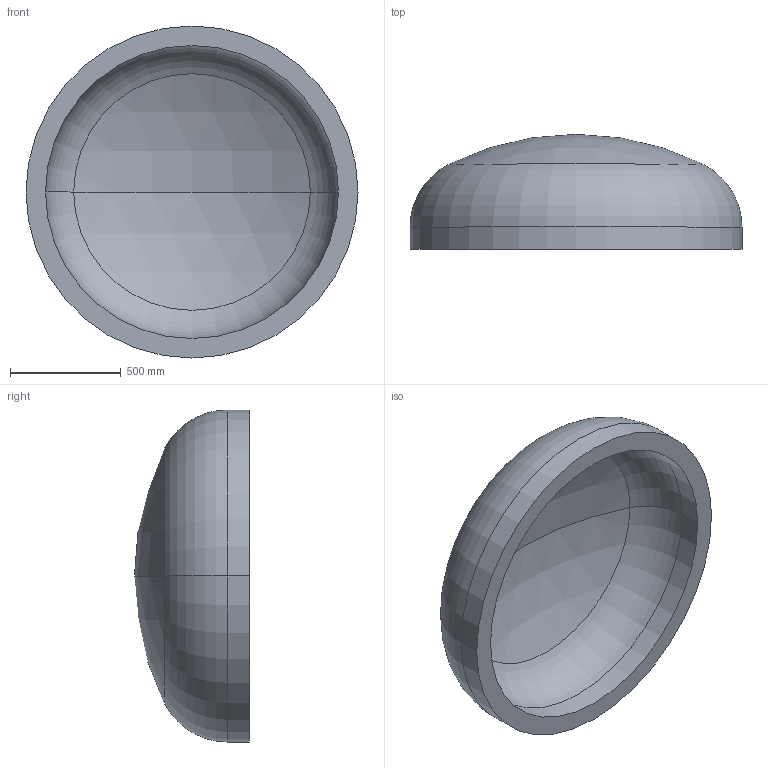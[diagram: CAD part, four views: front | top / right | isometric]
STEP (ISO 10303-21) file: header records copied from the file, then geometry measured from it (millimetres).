
FILE_DESCRIPTION (( 'STEP AP203' ), '1' );
FILE_NAME ('DIN 28013 Korbbogenform_-_Boden DIN 28013 - 1500 x 100 - I - s=88.step', '2016-07-01T10:55:56', ( '' ), ( '' ), 'SwSTEP 2.0', 'SolidWorks 2013', '' );
FILE_SCHEMA (( 'CONFIG_CONTROL_DESIGN' ));
Length unit declared in the file: millimetre
Products named in the file (1): DIN 28013 Korbbogenform_-_Boden DIN 28013 - 1500 x 100 - I - s=88
Bounding box: 1500 x 519.51 x 1500 mm (x, y, z)
Volume: 238700374.5 mm3; surface area: 5831587.9 mm2
Topology: 1 solids, 1 shells, 13 faces, 24 edges, 14 vertices
Faces by surface type: torus 4, cylinder 4, sphere 4, plane 1
Entity records: 407 total; most frequent: DIRECTION 72, CARTESIAN_POINT 52, ORIENTED_EDGE 48, AXIS2_PLACEMENT_3D 34, EDGE_CURVE 24, CIRCLE 20, VERTEX_POINT 14, EDGE_LOOP 14
